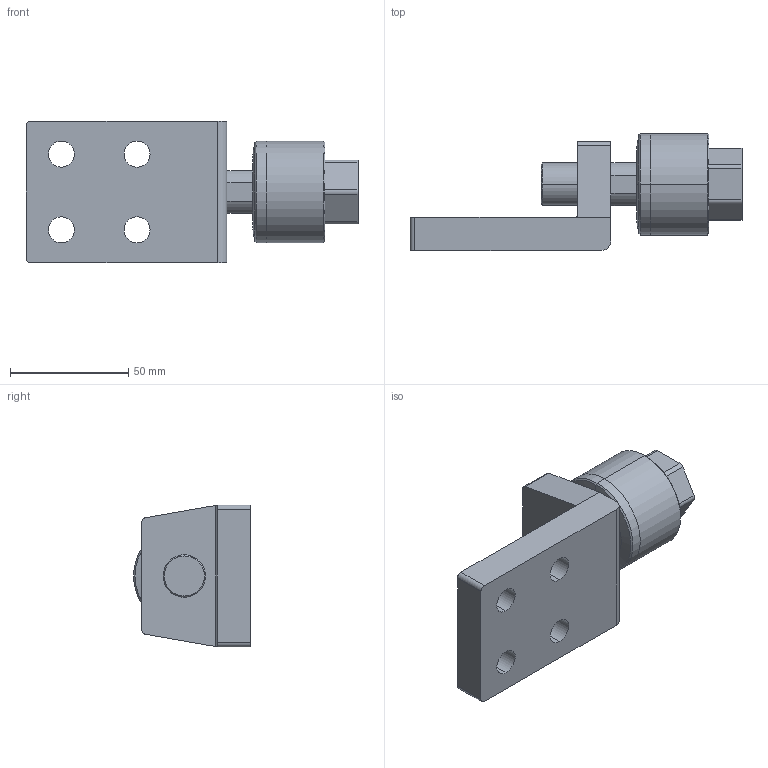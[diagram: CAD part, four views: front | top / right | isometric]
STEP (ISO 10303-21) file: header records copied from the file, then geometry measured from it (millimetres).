
FILE_DESCRIPTION (( 'STEP AP203' ), '1' );
FILE_NAME ('FCM18A-1.5-L.STEP', '2016-04-14T01:59:12', ( '' ), ( '' ), 'SwSTEP 2.0', 'SolidWorks 2014', '' );
FILE_SCHEMA (( 'CONFIG_CONTROL_DESIGN' ));
Length unit declared in the file: millimetre
Products named in the file (3): FCM18A-L; FCM18A-1.5-L; FCM18A-1.5
Assembly tree (2 placements, depth 2):
  FCM18A-1.5-L
    FCM18A-1.5
    FCM18A-L
Bounding box: 140.5 x 49.5 x 60 mm (x, y, z)
Volume: 145814 mm3; surface area: 31175.2 mm2
Topology: 2 solids, 2 shells, 72 faces, 178 edges, 111 vertices
Faces by surface type: cylinder 34, plane 28, cone 10
Entity records: 2447 total; most frequent: DIRECTION 402, CARTESIAN_POINT 370, ORIENTED_EDGE 352, EDGE_CURVE 176, AXIS2_PLACEMENT_3D 151, VERTEX_POINT 111, VECTOR 100, LINE 100
